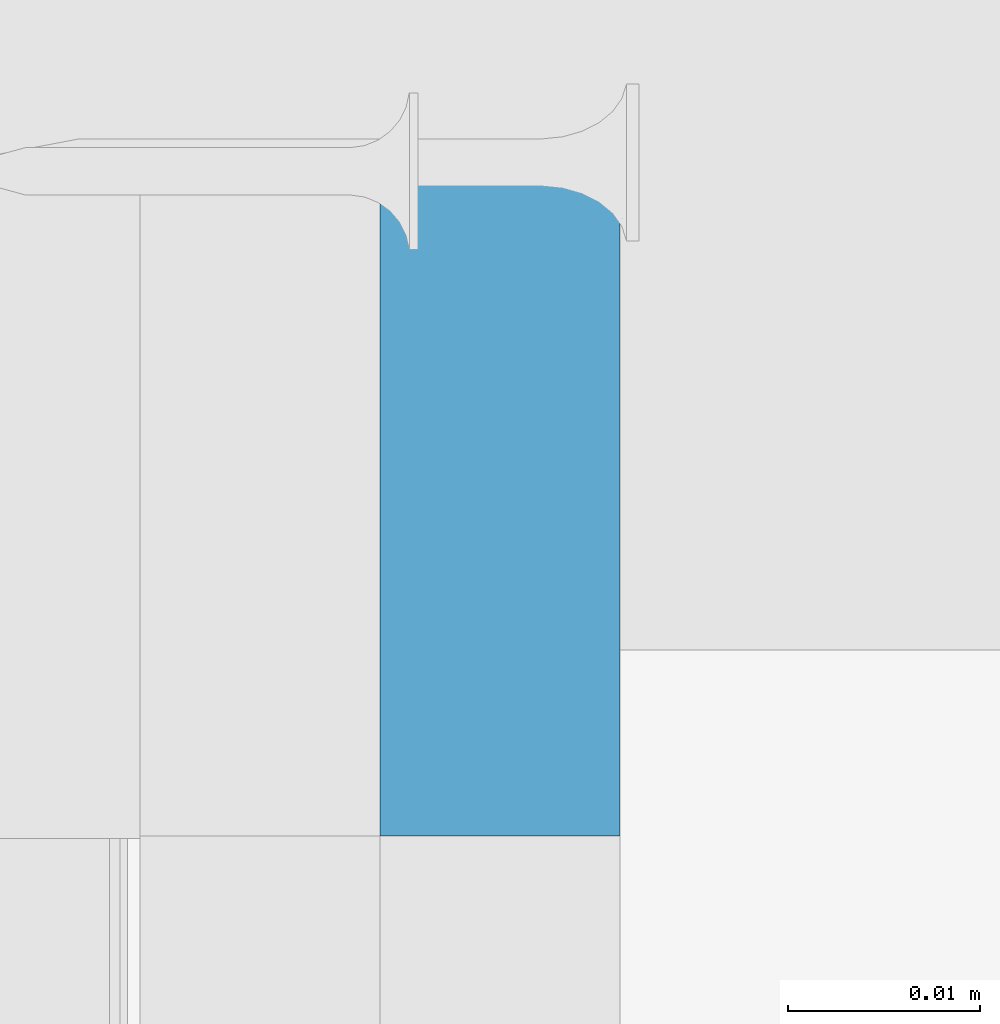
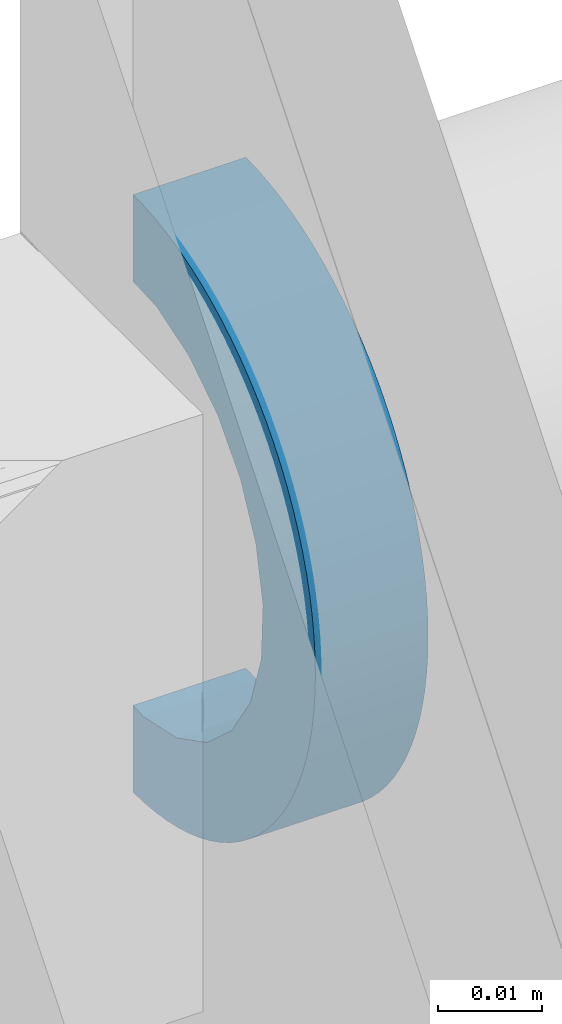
# One storey, part 48 of 61: 1 wall.
"""IFC2X3 building model written with IfcOpenShell, lengths in millimetres."""

from ifc_helpers import new_model, si_unit, frame, origin_with_axes, place, context, subcontext, project, spatial, faceted_brep, material, type_object, element, save


model = new_model("IFC2X3")

# Units and contexts
model_context = context("Model", 3, world=origin_with_axes())
body_context = subcontext(model_context, "Body", "Model", "MODEL_VIEW")
ifc_project = project(units=[si_unit("LENGTHUNIT", "METRE", prefix="MILLI"), si_unit("AREAUNIT", "SQUARE_METRE"), si_unit("VOLUMEUNIT", "CUBIC_METRE")], contexts=[model_context])

# Site, building, storey
site_placement = place(None, frame((2152.1410261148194, -2015.0250894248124, 57.61556563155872), z_axis=(0.0, 0.0, 1.0), x_axis=(-1.1102230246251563e-16, 1.0, 0.0)))
site = spatial("IfcSite", under=ifc_project, at=site_placement, Name="Default Site", CompositionType="ELEMENT")
building_placement = place(site_placement, origin_with_axes())
building = spatial("IfcBuilding", under=site, at=building_placement, Name="Default Building", CompositionType="ELEMENT")
storey_placement = place(building_placement, origin_with_axes())
storey = spatial("IfcBuildingStorey", under=building, at=storey_placement, Name="Default Building Storey", CompositionType="ELEMENT", Elevation=57.61556563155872)

# Wall
ifc_material = material(Name="M08_Obsidian_Black")
wall_type = type_object("IfcWallType", Name="Wypełnienie masą szpachlową RIGIPS", PredefinedType="NOTDEFINED")
wall_placement = place(storey_placement, frame((3138.037079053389, 1916.1800773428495, 609.2578275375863), z_axis=(0.0, 0.0, 1.0), x_axis=(1.0, 0.0, 0.0)))
element("IfcWall", 1, at=wall_placement, inside=storey, type_object=wall_type, material=ifc_material, Name="Wypełnienie masą szpachlową RIGIPS", context=body_context, shape_type="Brep", body=[
    faceted_brep([(0.0, 12.50000009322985, -84.9303099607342), (0.0, 12.50000009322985, -74.74771466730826), (0.0, 4.511946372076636e-14, -74.74771466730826), (0.0, 4.511946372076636e-14, -84.9303099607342), (-2.1976681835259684, 12.50000009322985, -84.8612454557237), (-4.386663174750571, 12.50000009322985, -84.65432450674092), (-6.558346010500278, 12.50000009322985, -84.31036373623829), (-8.704146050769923, 12.50000009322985, -83.8307206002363), (-10.815594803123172, 12.500000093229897, -83.21728803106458), (-12.884359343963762, 12.500000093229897, -82.47248696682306), (-14.902275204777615, 12.500000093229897, -81.59925679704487), (-16.86137859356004, 12.500000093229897, -80.60104376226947), (-18.753937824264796, 12.500000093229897, -79.48178735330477), (-20.57248383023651, 12.500000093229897, -78.2459047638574), (-22.309839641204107, 12.500000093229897, -76.89827345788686), (-23.959148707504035, 12.500000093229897, -75.44421192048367), (-25.513901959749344, 12.500000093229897, -73.88945866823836), (-26.967963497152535, 12.500000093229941, -72.24014960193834), (-28.31559480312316, 12.500000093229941, -70.50279379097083), (-29.55147739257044, 12.500000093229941, -68.68424778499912), (-30.670733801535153, 12.500000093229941, -66.79168855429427), (-31.668946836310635, 12.500000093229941, -64.83258516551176), (-32.54217700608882, 12.500000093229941, -62.8146693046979), (-33.28697807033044, 12.500000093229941, -60.7459047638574), (-33.900410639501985, 12.500000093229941, -58.634456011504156), (-34.38005377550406, 12.500000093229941, -56.4886559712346), (-34.724014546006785, 12.500000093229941, -54.31697313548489), (-34.93093549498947, 12.500000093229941, -52.1279781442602), (-34.99999999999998, 12.500000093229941, -49.930309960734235), (-34.93093549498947, 12.500000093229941, -47.732641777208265), (-34.724014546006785, 12.500000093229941, -45.54364678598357), (-34.38005377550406, 12.500000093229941, -43.37196395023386), (-33.900410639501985, 12.500000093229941, -41.226163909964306), (-33.28697807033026, 12.500000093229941, -39.11471515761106), (-32.54217700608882, 12.500000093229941, -37.04595061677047), (-31.668946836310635, 12.500000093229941, -35.02803475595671), (-30.670733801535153, 12.500000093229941, -33.068931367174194), (-29.55147739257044, 12.500000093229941, -31.176372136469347), (-28.31559480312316, 12.500000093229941, -29.35782613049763), (-26.967963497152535, 12.500000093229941, -27.620470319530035), (-25.513901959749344, 12.500000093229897, -25.971161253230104), (-23.959148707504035, 12.500000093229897, -24.4164080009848), (-22.309839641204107, 12.500000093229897, -22.962346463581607), (-20.57248383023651, 12.500000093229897, -21.61471515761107), (-18.753937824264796, 12.500000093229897, -20.3788325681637), (-16.86137859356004, 12.500000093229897, -19.25957615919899), (-14.902275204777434, 12.500000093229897, -18.261363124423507), (-12.884359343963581, 12.500000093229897, -17.38813295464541), (-10.815594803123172, 12.500000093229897, -16.643331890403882), (-8.704146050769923, 12.50000009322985, -16.029899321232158), (-6.558346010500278, 12.50000009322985, -15.550256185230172), (-4.386663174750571, 12.50000009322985, -15.206295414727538), (-2.1976681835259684, 12.50000009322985, -14.999374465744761), (0.0, 12.50000009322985, -14.93030996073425), (0.0, 12.50000009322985, -25.112905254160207), (-4.503166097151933, 12.500000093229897, -25.339224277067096), (-10.714365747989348, 12.500000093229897, -27.342650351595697), (-16.19539907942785, 12.500000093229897, -30.885388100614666), (-20.57274272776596, 12.500000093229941, -35.726005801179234), (-23.5480879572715, 12.500000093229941, -41.53462335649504), (-24.918669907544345, 12.500000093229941, -47.91539307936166), (-24.59108568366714, 12.500000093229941, -54.43347605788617), (-22.587659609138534, 12.500000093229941, -60.64467570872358), (-19.04492186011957, 12.500000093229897, -66.12570904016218), (-14.204304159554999, 12.500000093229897, -70.50305268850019), (-8.395686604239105, 12.500000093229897, -73.47839791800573), (-2.0149168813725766, 12.50000009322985, -74.84897986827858), (-2.0149168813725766, 4.511946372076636e-14, -74.84897986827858), (-8.395686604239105, 9.023892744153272e-14, -73.47839791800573), (-14.204304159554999, 9.023892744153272e-14, -70.50305268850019), (-19.04492186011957, 9.023892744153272e-14, -66.12570904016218), (-22.587659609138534, 1.3535839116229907e-13, -60.64467570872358), (-24.59108568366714, 1.3535839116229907e-13, -54.43347605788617), (-24.918669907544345, 1.3535839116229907e-13, -47.91539307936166), (-23.5480879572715, 1.3535839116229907e-13, -41.53462335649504), (-20.57274272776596, 1.3535839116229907e-13, -35.726005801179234), (-16.19539907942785, 9.023892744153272e-14, -30.885388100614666), (-10.714365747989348, 9.023892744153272e-14, -27.342650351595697), (-4.503166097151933, 9.023892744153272e-14, -25.339224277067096), (0.0, 4.511946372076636e-14, -25.112905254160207), (0.0, 4.511946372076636e-14, -14.93030996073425), (-2.1976681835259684, 4.511946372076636e-14, -14.999374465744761), (-4.386663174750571, 4.511946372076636e-14, -15.206295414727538), (-6.558346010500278, 4.511946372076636e-14, -15.550256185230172), (-8.704146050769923, 4.511946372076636e-14, -16.029899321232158), (-10.815594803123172, 9.023892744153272e-14, -16.643331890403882), (-12.884359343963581, 9.023892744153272e-14, -17.38813295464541), (-14.902275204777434, 9.023892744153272e-14, -18.261363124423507), (-16.86137859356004, 9.023892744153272e-14, -19.25957615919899), (-18.753937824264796, 9.023892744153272e-14, -20.3788325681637), (-20.57248383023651, 9.023892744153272e-14, -21.61471515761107), (-22.309839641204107, 9.023892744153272e-14, -22.962346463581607), (-23.959148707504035, 9.023892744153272e-14, -24.4164080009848), (-25.513901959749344, 9.023892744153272e-14, -25.971161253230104), (-26.967963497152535, 1.3535839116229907e-13, -27.620470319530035), (-28.31559480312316, 1.3535839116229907e-13, -29.35782613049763), (-29.55147739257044, 1.3535839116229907e-13, -31.176372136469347), (-30.670733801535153, 1.3535839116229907e-13, -33.068931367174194), (-31.668946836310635, 1.3535839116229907e-13, -35.02803475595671), (-32.54217700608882, 1.3535839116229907e-13, -37.04595061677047), (-33.28697807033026, 1.3535839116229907e-13, -39.11471515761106), (-33.900410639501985, 1.3535839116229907e-13, -41.226163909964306), (-34.38005377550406, 1.3535839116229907e-13, -43.37196395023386), (-34.724014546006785, 1.3535839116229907e-13, -45.54364678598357), (-34.93093549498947, 1.3535839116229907e-13, -47.732641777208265), (-34.99999999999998, 1.3535839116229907e-13, -49.930309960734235), (-34.93093549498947, 1.3535839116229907e-13, -52.1279781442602), (-34.724014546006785, 1.3535839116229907e-13, -54.31697313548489), (-34.38005377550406, 1.3535839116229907e-13, -56.4886559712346), (-33.900410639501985, 1.3535839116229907e-13, -58.634456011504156), (-33.28697807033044, 1.3535839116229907e-13, -60.7459047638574), (-32.54217700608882, 1.3535839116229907e-13, -62.8146693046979), (-31.668946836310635, 1.3535839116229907e-13, -64.83258516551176), (-30.670733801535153, 1.3535839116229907e-13, -66.79168855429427), (-29.55147739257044, 1.3535839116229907e-13, -68.68424778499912), (-28.31559480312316, 1.3535839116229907e-13, -70.50279379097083), (-26.967963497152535, 1.3535839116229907e-13, -72.24014960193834), (-25.513901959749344, 9.023892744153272e-14, -73.88945866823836), (-23.959148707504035, 9.023892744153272e-14, -75.44421192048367), (-22.309839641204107, 9.023892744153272e-14, -76.89827345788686), (-20.57248383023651, 9.023892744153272e-14, -78.2459047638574), (-18.753937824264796, 9.023892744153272e-14, -79.48178735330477), (-16.86137859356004, 9.023892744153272e-14, -80.60104376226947), (-14.902275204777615, 9.023892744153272e-14, -81.59925679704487), (-12.884359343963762, 9.023892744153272e-14, -82.47248696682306), (-10.815594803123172, 9.023892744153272e-14, -83.21728803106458), (-8.704146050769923, 4.511946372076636e-14, -83.8307206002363), (-6.558346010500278, 4.511946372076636e-14, -84.31036373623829), (-4.386663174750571, 4.511946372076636e-14, -84.65432450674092), (-2.1976681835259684, 4.511946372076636e-14, -84.8612454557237)], [[[0, 1, 2, 3]], [[1, 0, 4, 5, 6, 7, 8, 9, 10, 11, 12, 13, 14, 15, 16, 17, 18, 19, 20, 21, 22, 23, 24, 25, 26, 27, 28, 29, 30, 31, 32, 33, 34, 35, 36, 37, 38, 39, 40, 41, 42, 43, 44, 45, 46, 47, 48, 49, 50, 51, 52, 53, 54, 55, 56, 57, 58, 59, 60, 61, 62, 63, 64, 65, 66]], [[3, 2, 67, 68, 69, 70, 71, 72, 73, 74, 75, 76, 77, 78, 79, 80, 81, 82, 83, 84, 85, 86, 87, 88, 89, 90, 91, 92, 93, 94, 95, 96, 97, 98, 99, 100, 101, 102, 103, 104, 105, 106, 107, 108, 109, 110, 111, 112, 113, 114, 115, 116, 117, 118, 119, 120, 121, 122, 123, 124, 125, 126, 127, 128, 129]], [[3, 129, 4, 0]], [[129, 128, 5, 4]], [[128, 127, 6, 5]], [[127, 126, 7, 6]], [[126, 125, 8, 7]], [[125, 124, 9, 8]], [[124, 123, 10, 9]], [[123, 122, 11, 10]], [[122, 121, 12, 11]], [[121, 120, 13, 12]], [[120, 119, 14, 13]], [[119, 118, 15, 14]], [[118, 117, 16, 15]], [[117, 116, 17, 16]], [[116, 115, 18, 17]], [[115, 114, 19, 18]], [[114, 113, 20, 19]], [[113, 112, 21, 20]], [[112, 111, 22, 21]], [[111, 110, 23, 22]], [[110, 109, 24, 23]], [[109, 108, 25, 24]], [[108, 107, 26, 25]], [[107, 106, 27, 26]], [[106, 105, 28, 27]], [[105, 104, 29, 28]], [[104, 103, 30, 29]], [[103, 102, 31, 30]], [[102, 101, 32, 31]], [[101, 100, 33, 32]], [[100, 99, 34, 33]], [[99, 98, 35, 34]], [[98, 97, 36, 35]], [[97, 96, 37, 36]], [[96, 95, 38, 37]], [[95, 94, 39, 38]], [[94, 93, 40, 39]], [[93, 92, 41, 40]], [[92, 91, 42, 41]], [[91, 90, 43, 42]], [[90, 89, 44, 43]], [[89, 88, 45, 44]], [[88, 87, 46, 45]], [[87, 86, 47, 46]], [[86, 85, 48, 47]], [[85, 84, 49, 48]], [[84, 83, 50, 49]], [[83, 82, 51, 50]], [[82, 81, 52, 51]], [[81, 80, 53, 52]], [[79, 78, 55, 54]], [[78, 77, 56, 55]], [[77, 76, 57, 56]], [[76, 75, 58, 57]], [[75, 74, 59, 58]], [[74, 73, 60, 59]], [[73, 72, 61, 60]], [[72, 71, 62, 61]], [[71, 70, 63, 62]], [[70, 69, 64, 63]], [[69, 68, 65, 64]], [[68, 67, 66, 65]], [[67, 2, 1, 66]], [[79, 54, 53, 80]]]),
])

save(model, "model.ifc")
